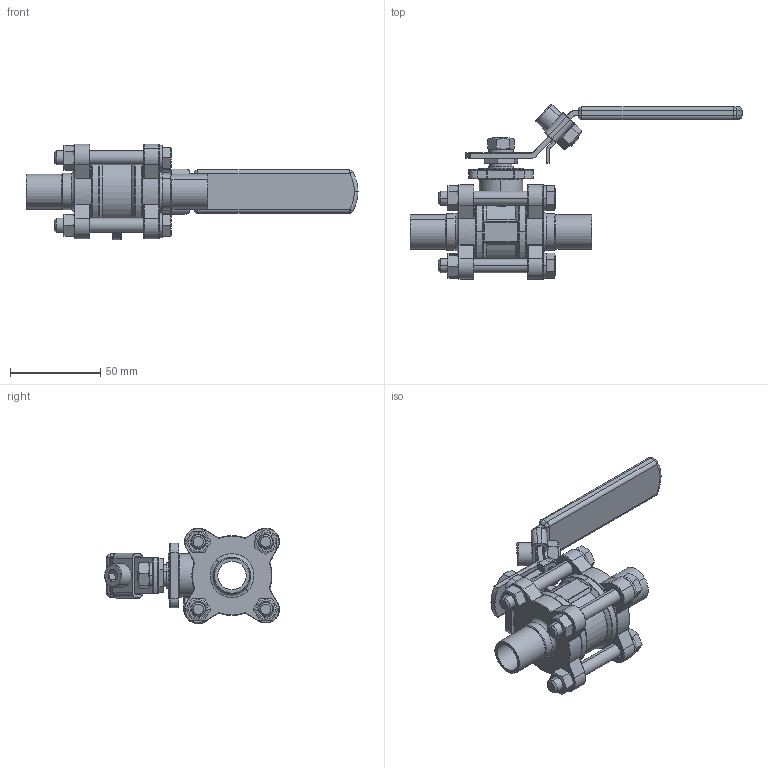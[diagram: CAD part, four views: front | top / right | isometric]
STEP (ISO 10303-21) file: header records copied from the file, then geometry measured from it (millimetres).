
FILE_DESCRIPTION (( 'STEP AP203' ), '1' );
FILE_NAME ('BAV-W-0.75.STEP', '2019-06-17T06:02:13', ( '' ), ( '' ), 'SwSTEP 2.0', 'SolidWorks 2014', '' );
FILE_SCHEMA (( 'CONFIG_CONTROL_DESIGN' ));
Length unit declared in the file: millimetre
Products named in the file (20): 2WAY-THRUST WASHER-0.5-.75; 2WAY-HANDLE-0.5-.75-1; 2WAY-HANDLE-0.5-.75-3-1; 2WAY-STEM-0.75; 2WAY-HANDLE-0.5-.75-2; 2WAY-STEM PACKINGS-0.5-.75; 2WAY-HANDLE-0.5-.75-3; 2WAY-HANDLE-0.5-.75; 2WAY-BALL-0.75; 2WAY-BOLT NUT-0.5-.75; 2WAY-BOLT-0.75; 2WAY-GLAND-0.5-.75; 2WAY-GASKET-0.75; 2WAY-BOLT WASHERS-0.5-.75; 2WAY-HANDLE NUT-0.5-.75; BAV-W-0.75; 2WAY-HANDLE WASHERS-C-0.5; 2WAY-BODY-0.75; 2WAY-CAP-W-0.75; 2WAY-SEAT-0.75
Assembly tree (31 placements, depth 2):
  BAV-W-0.75
    2WAY-BODY-0.75
    2WAY-BALL-0.75
    2WAY-SEAT-0.75  x2
    2WAY-STEM-0.75
    2WAY-THRUST WASHER-0.5-.75
    2WAY-STEM PACKINGS-0.5-.75
    2WAY-GLAND-0.5-.75
    2WAY-HANDLE NUT-0.5-.75
    2WAY-HANDLE WASHERS-C-0.5
    2WAY-HANDLE-0.5-.75
    2WAY-HANDLE-0.5-.75-1
    2WAY-HANDLE-0.5-.75-2
    2WAY-HANDLE-0.5-.75-3
    2WAY-HANDLE-0.5-.75-3-1
    2WAY-GASKET-0.75  x2
    2WAY-BOLT NUT-0.5-.75  x4
    2WAY-BOLT WASHERS-0.5-.75  x4
    2WAY-BOLT-0.75  x4
    2WAY-CAP-W-0.75  x2
Bounding box: 184.43 x 97.12 x 53.18 mm (x, y, z)
Volume: 123419.6 mm3; surface area: 80999.5 mm2
Topology: 31 solids, 31 shells, 1106 faces, 2533 edges, 1471 vertices
Faces by surface type: cylinder 388, plane 238, torus 222, cone 125, bspline 86, sphere 47
Entity records: 27595 total; most frequent: CARTESIAN_POINT 6654, DIRECTION 4199, ORIENTED_EDGE 3710, EDGE_CURVE 1855, AXIS2_PLACEMENT_3D 1796, VERTEX_POINT 1077, CIRCLE 1007, EDGE_LOOP 890
